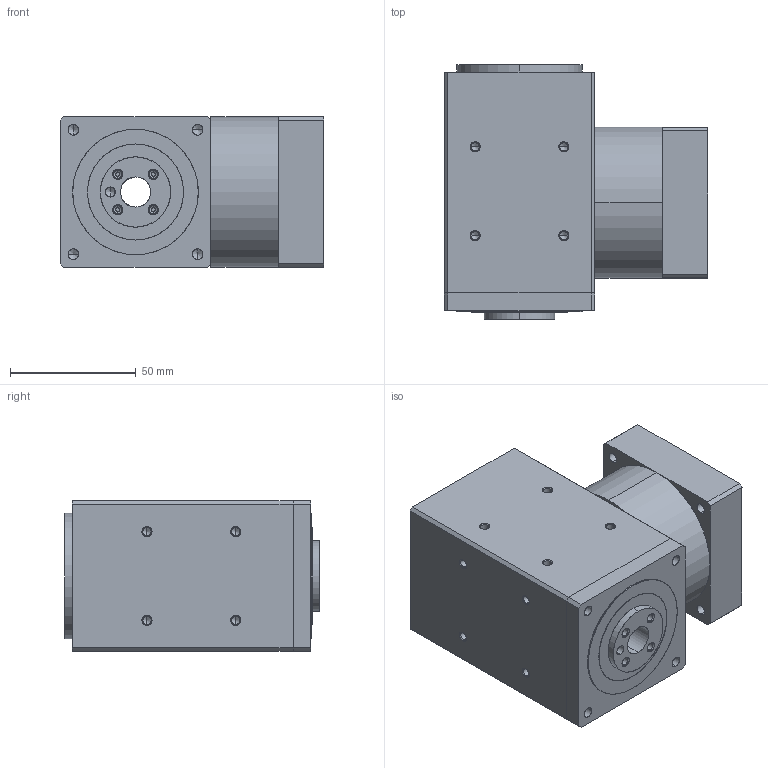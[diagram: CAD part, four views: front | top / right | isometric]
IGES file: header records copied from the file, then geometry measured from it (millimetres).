
Start section: SolidWorks IGES file using analytic representation for surfaces
Global section: file name: C:\Users\render\Documents\CAD Files\R-Gearboxes\RAFS\RAFS-060.IGS; native system: SolidWorks 2009; preprocessor: SolidWorks 2009; author: render; date: 100527.144757; units: millimetre
Bounding box: 105 x 101.5 x 60 mm (x, y, z)
Surface area: 66544 mm2 (no closed solid volume)
Topology: 0 solids, 0 shells, 234 faces, 3747 edges, 3705 vertices
Faces by surface type: revolution 191, bspline 43
